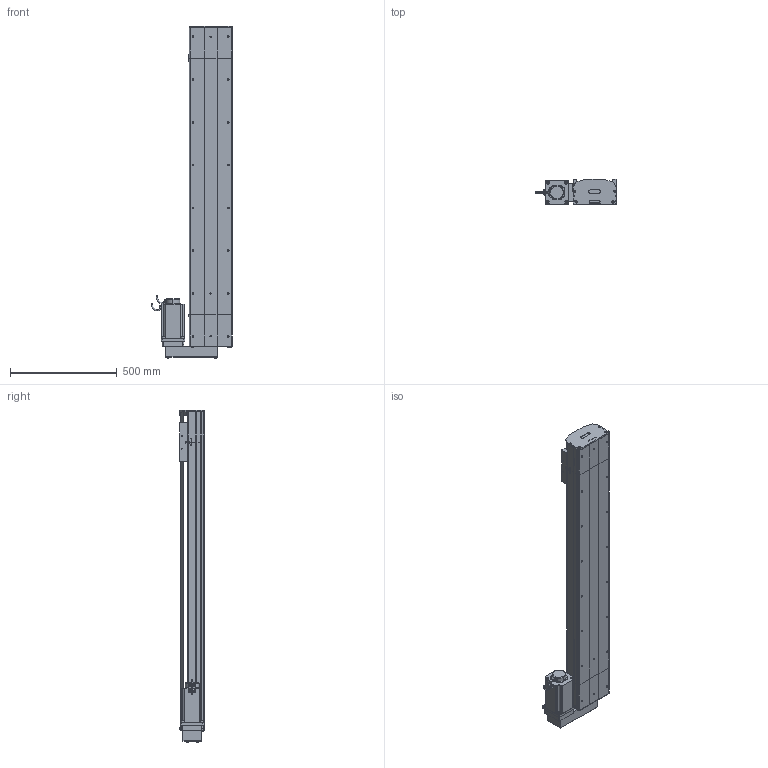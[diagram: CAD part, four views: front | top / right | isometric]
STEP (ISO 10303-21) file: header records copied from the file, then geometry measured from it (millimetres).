
FILE_DESCRIPTION (( 'STEP AP214' ), '1' );
FILE_NAME ('D20 TSH BL S1200.STEP', '2010-06-30T08:42:34', ( 'Conseil Régional Haute-Normandie' ), ( 'Conseil Régional Haute-Normandie' ), 'SwSTEP 2.0', 'SolidWorks 2010', '' );
FILE_SCHEMA (( 'AUTOMOTIVE_DESIGN' ));
Length unit declared in the file: millimetre
Products named in the file (35): course D20 L1200_Default; couvercle D20 S1200_Default; corpl head MD D20_Default; corp D20 S1200_Default; vis M5 L25_Default; head BL D20_Default; rail + arbre  D20 S1200; plaque de  bout head BR D20_Default; couvercle head l D20_Default; Arbre+rail head D20; avant 110BLDC170A-630x; corps 110BLDC170A-630x; codeur 110BLDC170A-630x; tete d''axe haut D20; tete d''axe bas D20; corpl tail D20_Default; Conecteur2_Default; Plaque racord D20_Default; Arbre+rail tail D20; tail D20 S_Default; vis M5 L70_Default; Moteur motionking 110BLDC170A-640x; plaque de  bout tail D20_Default; clavette; Conecteur_Default; chariot D20S_Default; vis M5 L8 90°_Default; 2 vis M5 L12_Default; guide D20; couvercle tail D20_Default; renvoi  BR_Default; vis M8 L12_Default; Chariot D20; vis M5 L12_Default; D20 TSH BL S1200
Assembly tree (59 placements, depth 4):
  D20 TSH BL S1200
    tail D20 S_Default
      corpl tail D20_Default
      vis M5 L25_Default  x2
      Arbre+rail tail D20
      plaque de  bout tail D20_Default
      2 vis M5 L12_Default  x4
      vis M5 L8 90°_Default  x2
      tete d''axe bas D20
      tete d''axe haut D20
      couvercle tail D20_Default
    head BL D20_Default
      vis M5 L70_Default  x4
      2 vis M5 L12_Default  x6
      corpl head MD D20_Default
      vis M8 L12_Default  x4
      Plaque racord D20_Default
      vis M5 L25_Default  x2
      Arbre+rail head D20
      plaque de  bout head BR D20_Default
      vis M5 L12_Default  x2
      couvercle head l D20_Default
      Moteur motionking 110BLDC170A-640x
        codeur 110BLDC170A-630x
        Conecteur_Default
        corps 110BLDC170A-630x
        Conecteur2_Default
        avant 110BLDC170A-630x
        clavette
      renvoi  BR_Default
    chariot D20S_Default
      guide D20  x2
      Chariot D20
      vis M5 L12_Default  x4
    course D20 L1200_Default
      couvercle D20 S1200_Default
      corp D20 S1200_Default
      rail + arbre  D20 S1200
Bounding box: 380 x 115.7 x 1551.7 mm (x, y, z)
Volume: 14559436.7 mm3; surface area: 3074668 mm2
Topology: 84 solids, 84 shells, 2348 faces, 5930 edges, 3831 vertices
Faces by surface type: plane 1384, cylinder 676, bspline 136, torus 77, cone 71, sphere 4
Entity records: 76909 total; most frequent: CARTESIAN_POINT 25313, ORIENTED_EDGE 9156, DIRECTION 8609, EDGE_CURVE 4578, VERTEX_POINT 3013, LINE 2991, VECTOR 2991, AXIS2_PLACEMENT_3D 2809
